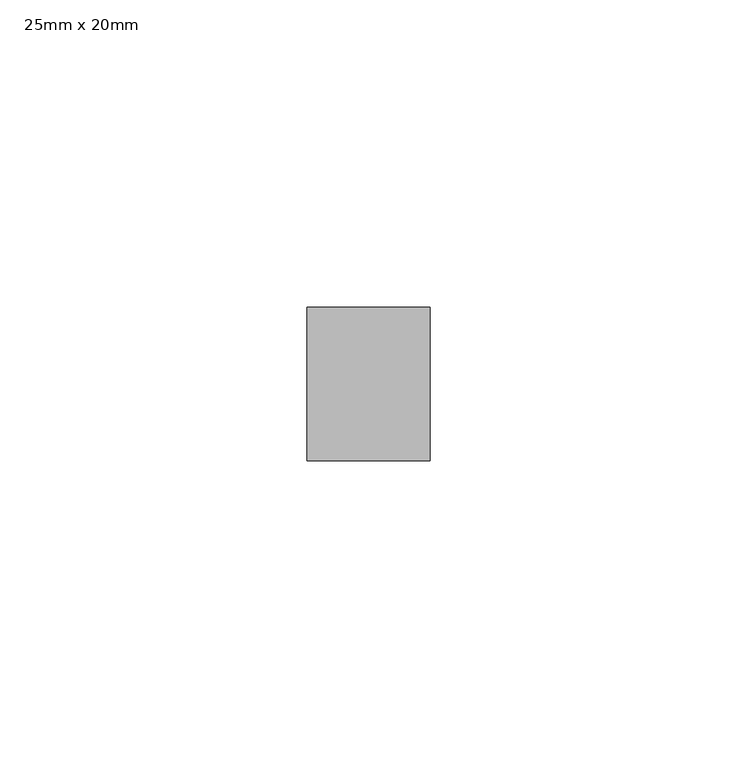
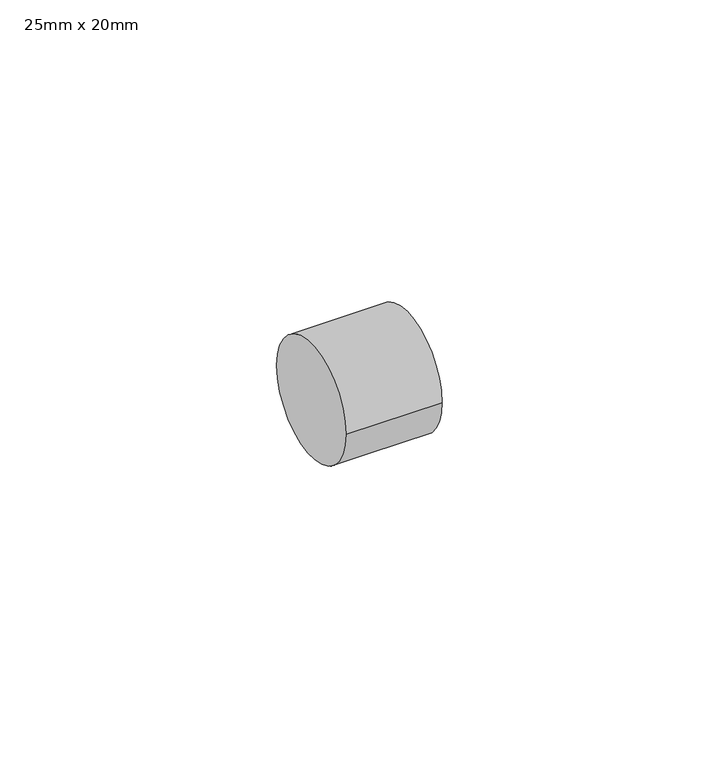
"""IFC4 building model written with IfcOpenShell, lengths in millimetres: pipe fitting geometry, PipeFitting_HTA_CPVC_ReducingBushesShortPattern : 25mm x 20mm."""

from ifc_helpers import new_model, si_unit, point, frame, origin, origin_2d, place, context, project, spatial, circle_curve, trimmed, segment, composite_curve, outline, extrude, source, transform, mapped, element, save


def pipe_fitting_25mm_x_20mm_7e48cff1(model_context):
    return source(origin(), model_context, "Body", "SweptSolid", [
        extrude(outline(composite_curve([segment(trimmed(circle_curve(origin_2d(), 12.5), [point((-12.5, 0.0))], [point((12.5, 0.0))], False, "CARTESIAN"), True, "CONTINUOUS"), segment(trimmed(circle_curve(origin_2d(), 12.5), [point((12.5, 0.0))], [point((-12.5, 0.0))], False, "CARTESIAN"), True, "CONTINUOUS")], self_intersect=False)), frame((-10.0, 0.0, 0.0), z_axis=(1.0, 0.0, 0.0), x_axis=(0.0, 1.0, 0.0)), (0.0, 0.0, 1.0), 20.0),
    ])


if __name__ == "__main__":
    model = new_model("IFC4")
    model_context = context("Model", 3, world=origin())
    ifc_project = project(units=[si_unit("LENGTHUNIT", "METRE", prefix="MILLI")], contexts=[model_context])
    site = spatial("IfcSite", under=ifc_project)
    building = spatial("IfcBuilding", under=site)
    placement = place(None, origin())
    pipe_fitting_25mm_x_20mm_shape = pipe_fitting_25mm_x_20mm_7e48cff1(model_context)
    element("IfcPipeFitting", 1, ObjectType="PipeFitting_HTA_CPVC_ReducingBushesShortPattern : 25mm x 20mm", at=placement, inside=building, context=model_context, shape_type="MappedRepresentation", body=[
        mapped(pipe_fitting_25mm_x_20mm_shape, transform((0.0, 0.0, 0.0), x_axis=(1.0, 0.0, 0.0), y_axis=(0.0, 1.0, 0.0), z_axis=(0.0, 0.0, 1.0))),
    ])
    save(model, "model.ifc")
